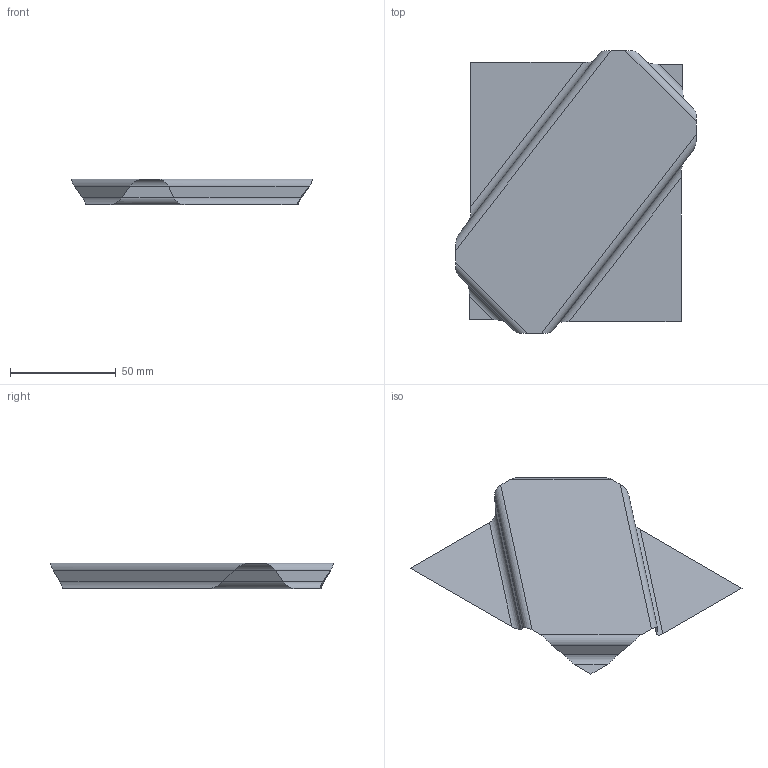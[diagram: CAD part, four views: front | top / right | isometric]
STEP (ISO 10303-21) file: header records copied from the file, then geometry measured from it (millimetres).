
FILE_DESCRIPTION(('CATIA V5 STEP Exchange'),'2;1');
FILE_NAME('C:\_Andres\UNIVERSIDAD\IQS\ASIGNATURAS\DAO\EXF\EXF-15161c\1original\Santolària_Rossell_Ej03-chapa_v24.stp','2016-03-04T16:56:12+00:00',('none'),('none'),'CATIA Version 5 Release 20 SP 1 (IN-10)','CATIA V5 STEP AP203','none');
FILE_SCHEMA(('CONFIG_CONTROL_DESIGN'));
Length unit declared in the file: millimetre
Products named in the file (1): Santolària_Rossell_Ej03-chapa_v24
Bounding box: 114.01 x 134.01 x 12.29 mm (x, y, z)
Surface area: 15323 mm2 (no closed solid volume)
Topology: 0 solids, 1 shells, 17 faces, 52 edges, 36 vertices
Faces by surface type: plane 9, cylinder 8
Entity records: 625 total; most frequent: CARTESIAN_POINT 200, ORIENTED_EDGE 68, DIRECTION 59, EDGE_CURVE 52, VERTEX_POINT 36, B_SPLINE_CURVE_WITH_KNOTS 29, VECTOR 23, LINE 23
